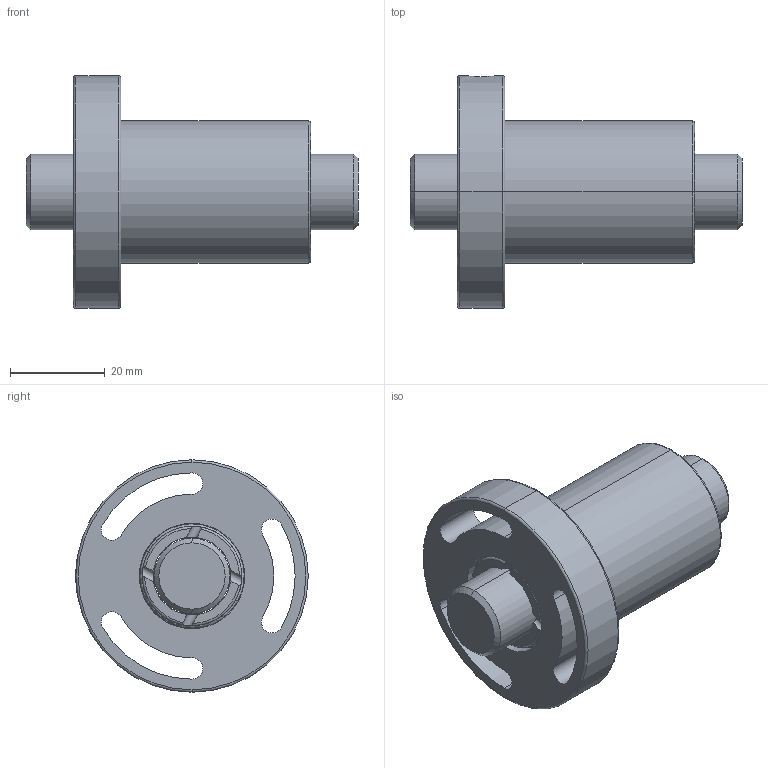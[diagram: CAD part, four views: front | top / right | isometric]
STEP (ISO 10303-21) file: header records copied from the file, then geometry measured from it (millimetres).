
FILE_DESCRIPTION (( 'STEP AP203' ), '1' );
FILE_NAME ('SFCR01605T4-C.STEP', '2020-06-18T01:48:06', ( '' ), ( '' ), 'SwSTEP 2.0', 'SolidWorks 2013', '' );
FILE_SCHEMA (( 'CONFIG_CONTROL_DESIGN' ));
Length unit declared in the file: millimetre
Products named in the file (1): SFCR01605T4-C
Bounding box: 70 x 49 x 49 mm (x, y, z)
Volume: 45431.7 mm3; surface area: 18149 mm2
Topology: 2 solids, 2 shells, 102 faces, 256 edges, 160 vertices
Faces by surface type: cylinder 56, torus 24, plane 18, cone 4
Entity records: 3875 total; most frequent: CARTESIAN_POINT 1327, DIRECTION 542, ORIENTED_EDGE 512, EDGE_CURVE 256, AXIS2_PLACEMENT_3D 239, VERTEX_POINT 160, CIRCLE 136, EDGE_LOOP 116
